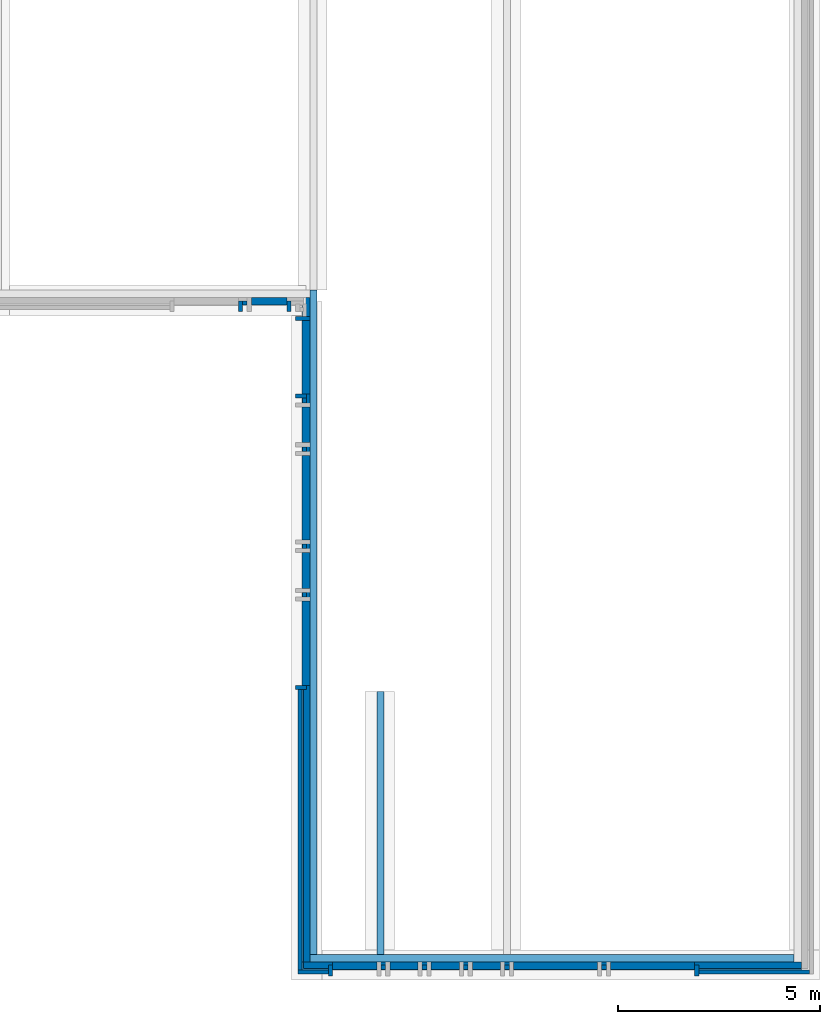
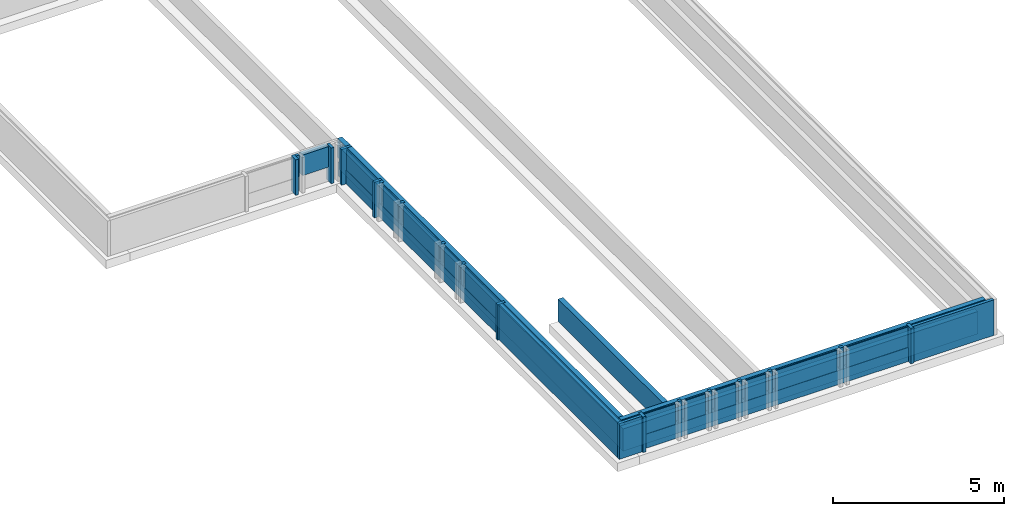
# One storey, part 4 of 15: 39 walls, 5 openings.
"""IFC2X3 building model written with IfcOpenShell, lengths in millimetres."""

from ifc_helpers import new_model, entity, si_unit, converted_unit, derived_unit, direction, frame, frame_2d, origin, place, context, subcontext, project, spatial, rectangle, extrude, material, layer, layer_set, layer_usage, type_object, element, save


model = new_model("IFC2X3")

# Units and contexts
model_context = context("Model", 3, precision=0.01, world=origin(), true_north=direction((6.123031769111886e-17, 1.0)))
body_context = subcontext(model_context, "Body", "Model", "MODEL_VIEW")
ifc_project = project(units=[si_unit("LENGTHUNIT", "METRE", prefix="MILLI"), si_unit("AREAUNIT", "SQUARE_METRE"), si_unit("VOLUMEUNIT", "CUBIC_METRE"), converted_unit("PLANEANGLEUNIT", "DEGREE", entity("IfcRatioMeasure", 0.017453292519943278), si_unit("PLANEANGLEUNIT", "RADIAN"), dimensions=[0, 0, 0, 0, 0, 0, 0]), si_unit("MASSUNIT", "GRAM", prefix="KILO"), derived_unit("MASSDENSITYUNIT", [(si_unit("MASSUNIT", "GRAM", prefix="KILO"), 1), (si_unit("LENGTHUNIT", "METRE"), -3)]), derived_unit("IONCONCENTRATIONUNIT", [(si_unit("MASSUNIT", "GRAM", prefix="KILO"), 1), (si_unit("LENGTHUNIT", "METRE"), -3)]), derived_unit("MOMENTOFINERTIAUNIT", [(si_unit("LENGTHUNIT", "METRE"), 4)]), si_unit("TIMEUNIT", "SECOND"), si_unit("FREQUENCYUNIT", "HERTZ"), si_unit("THERMODYNAMICTEMPERATUREUNIT", "DEGREE_CELSIUS"), derived_unit("THERMALTRANSMITTANCEUNIT", [(si_unit("MASSUNIT", "GRAM", prefix="KILO"), 1), (si_unit("THERMODYNAMICTEMPERATUREUNIT", "KELVIN"), -1), (si_unit("TIMEUNIT", "SECOND"), -3)]), derived_unit("THERMALCONDUCTANCEUNIT", [(si_unit("MASSUNIT", "GRAM", prefix="KILO"), 1), (si_unit("THERMODYNAMICTEMPERATUREUNIT", "KELVIN"), -1), (si_unit("TIMEUNIT", "SECOND"), -3), (si_unit("LENGTHUNIT", "METRE"), 1)]), derived_unit("VOLUMETRICFLOWRATEUNIT", [(si_unit("LENGTHUNIT", "METRE"), 3), (si_unit("TIMEUNIT", "SECOND"), -1)]), derived_unit("MASSFLOWRATEUNIT", [(si_unit("MASSUNIT", "GRAM", prefix="KILO"), 1), (si_unit("TIMEUNIT", "SECOND"), -1)]), derived_unit("ROTATIONALFREQUENCYUNIT", [(si_unit("TIMEUNIT", "SECOND"), -1)]), si_unit("ELECTRICCURRENTUNIT", "AMPERE"), si_unit("ELECTRICVOLTAGEUNIT", "VOLT"), si_unit("POWERUNIT", "WATT"), si_unit("FORCEUNIT", "NEWTON", prefix="KILO"), si_unit("ILLUMINANCEUNIT", "LUX"), si_unit("LUMINOUSFLUXUNIT", "LUMEN"), si_unit("LUMINOUSINTENSITYUNIT", "CANDELA"), derived_unit("USERDEFINED", [(si_unit("MASSUNIT", "GRAM", prefix="KILO"), -1), (si_unit("LENGTHUNIT", "METRE"), -2), (si_unit("TIMEUNIT", "SECOND"), 3), (si_unit("LUMINOUSFLUXUNIT", "LUMEN"), 1)]), derived_unit("USERDEFINED", [(si_unit("MASSUNIT", "GRAM", prefix="KILO"), 1), (si_unit("TIMEUNIT", "SECOND"), -3), (si_unit("LENGTHUNIT", "METRE"), 3), (si_unit("ELECTRICCURRENTUNIT", "AMPERE"), -2)]), derived_unit("SOUNDPOWERUNIT", [(si_unit("MASSUNIT", "GRAM", prefix="KILO"), 1), (si_unit("TIMEUNIT", "SECOND"), -3), (si_unit("LENGTHUNIT", "METRE"), 2)]), derived_unit("SOUNDPRESSUREUNIT", [(si_unit("MASSUNIT", "GRAM", prefix="KILO"), 1), (si_unit("LENGTHUNIT", "METRE"), -1), (si_unit("TIMEUNIT", "SECOND"), -2)]), derived_unit("LINEARVELOCITYUNIT", [(si_unit("LENGTHUNIT", "METRE"), 1), (si_unit("TIMEUNIT", "SECOND"), -1)]), si_unit("PRESSUREUNIT", "PASCAL"), derived_unit("USERDEFINED", [(si_unit("MASSUNIT", "GRAM", prefix="KILO"), 1), (si_unit("LENGTHUNIT", "METRE"), -2), (si_unit("TIMEUNIT", "SECOND"), -2)]), derived_unit("LINEARFORCEUNIT", [(si_unit("MASSUNIT", "GRAM", prefix="KILO"), 1), (si_unit("TIMEUNIT", "SECOND"), -2)]), derived_unit("PLANARFORCEUNIT", [(si_unit("MASSUNIT", "GRAM", prefix="KILO"), 1), (si_unit("LENGTHUNIT", "METRE"), -1), (si_unit("TIMEUNIT", "SECOND"), -2)]), derived_unit("SPECIFICHEATCAPACITYUNIT", [(si_unit("THERMODYNAMICTEMPERATUREUNIT", "KELVIN"), -1), (si_unit("LENGTHUNIT", "METRE"), 2), (si_unit("TIMEUNIT", "SECOND"), -2)]), derived_unit("HEATINGVALUEUNIT", [(si_unit("LENGTHUNIT", "METRE"), 2), (si_unit("TIMEUNIT", "SECOND"), -2)]), derived_unit("VAPORPERMEABILITYUNIT", [(si_unit("LENGTHUNIT", "METRE"), -1), (si_unit("TIMEUNIT", "SECOND"), 1)]), derived_unit("DYNAMICVISCOSITYUNIT", [(si_unit("MASSUNIT", "GRAM", prefix="KILO"), 1), (si_unit("TIMEUNIT", "SECOND"), -1), (si_unit("LENGTHUNIT", "METRE"), -1)]), derived_unit("THERMALEXPANSIONCOEFFICIENTUNIT", [(si_unit("THERMODYNAMICTEMPERATUREUNIT", "KELVIN"), -1)]), derived_unit("MODULUSOFELASTICITYUNIT", [(si_unit("MASSUNIT", "GRAM", prefix="KILO"), 1), (si_unit("LENGTHUNIT", "METRE"), -1), (si_unit("TIMEUNIT", "SECOND"), -2)]), derived_unit("ISOTHERMALMOISTURECAPACITYUNIT", [(si_unit("LENGTHUNIT", "METRE"), 3), (si_unit("MASSUNIT", "GRAM", prefix="KILO"), -1)]), derived_unit("MOISTUREDIFFUSIVITYUNIT", [(si_unit("TIMEUNIT", "SECOND"), -1), (si_unit("LENGTHUNIT", "METRE"), 2)])], contexts=[model_context])

# Site, building, storey
site_placement = place(None, frame((0.0, 300.0, 0.0)))
site = spatial("IfcSite", under=ifc_project, at=site_placement, Name="<Kadastrale nummers>", CompositionType="ELEMENT")
building_placement = place(site_placement, origin())
building = spatial("IfcBuilding", under=site, at=building_placement, CompositionType="ELEMENT")
storey_placement = place(building_placement, frame((0.0, 0.0, -1570.0)))
storey = spatial("IfcBuildingStorey", under=building, at=storey_placement, Name="-1 fundering", CompositionType="ELEMENT", Elevation=-1570.0)

# Walls
ifc_material_1 = material(Name="ISR_Metselwerk")
ifc_layer_1 = layer(ifc_material_1, 100.0)
ifc_layer_set_1 = layer_set([ifc_layer_1], Name="Basic Wall:21_DAT_metselwerk_100")
ifc_layer_usage_1 = layer_usage(ifc_layer_set_1, "AXIS2", "POSITIVE", -50.0)
wall_type_1 = type_object("IfcWallType", Name="Basic Wall:21_DAT_metselwerk_100", PredefinedType="STANDARD", material=ifc_layer_set_1)
wall_1_placement = place(storey_placement, frame((36225.0, 2374.9986232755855, 300.0)))
element("IfcWallStandardCase", 1, at=wall_1_placement, inside=storey, type_object=wall_type_1, material=ifc_layer_usage_1, Name="Basic Wall:21_DAT_metselwerk_100", ObjectType="Basic Wall:21_DAT_metselwerk_100", context=body_context, shape_type="SweptSolid", body=[
    extrude(rectangle(XDim=765.0000000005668, YDim=100.0, at=frame_2d((382.5000000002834, 3.552713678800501e-14), x_axis=(-1.0, 0.0))), origin(), (0.0, 0.0, 1.0), 1270.0000000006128),
])
wall_2_placement = place(storey_placement, frame((46140.0, 2374.998623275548, 300.0)))
element("IfcWallStandardCase", 2, at=wall_2_placement, inside=storey, type_object=wall_type_1, material=ifc_layer_usage_1, Name="Basic Wall:21_DAT_metselwerk_100", ObjectType="Basic Wall:21_DAT_metselwerk_100", context=body_context, shape_type="SweptSolid", body=[
    extrude(rectangle(XDim=2735.0000000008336, YDim=100.0, at=frame_2d((1367.5000000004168, -1.0658141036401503e-14), x_axis=(-1.0, 0.0))), origin(), (0.0, 0.0, 1.0), 1270.0000000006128),
])
wall_3_placement = place(storey_placement, frame((36275.0, 9360.0, 300.0), z_axis=(0.0, 0.0, 1.0), x_axis=(0.0, -1.0, 0.0)))
element("IfcWallStandardCase", 3, at=wall_3_placement, inside=storey, type_object=wall_type_1, material=ifc_layer_usage_1, Name="Basic Wall:21_DAT_metselwerk_100", ObjectType="Basic Wall:21_DAT_metselwerk_100", context=body_context, shape_type="SweptSolid", body=[
    extrude(rectangle(XDim=6935.001376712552, YDim=100.00000000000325, at=frame_2d((3467.500688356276, -9.237055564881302e-14), x_axis=(-1.0, 0.0))), origin(), (0.0, 0.0, 1.0), 1270.0000000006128),
])
wall_4_placement = place(storey_placement, frame((36390.0, 11760.0, 300.0), z_axis=(0.0, 0.0, 1.0), x_axis=(0.0, -1.0, 0.0)))
element("IfcWallStandardCase", 4, at=wall_4_placement, inside=storey, type_object=wall_type_1, material=ifc_layer_usage_1, Name="Basic Wall:21_DAT_metselwerk_100", ObjectType="Basic Wall:21_DAT_metselwerk_100", context=body_context, shape_type="SweptSolid", body=[
    extrude(rectangle(XDim=120.0000000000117, YDim=100.00000000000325, at=frame_2d((60.00000000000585, 6.501466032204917e-13), x_axis=(-1.0, 0.0))), origin(), (0.0, 0.0, 1.0), 1270.0000000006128),
])
wall_5_placement = place(storey_placement, frame((38280.0, 2489.9986232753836, 300.0)))
element("IfcWallStandardCase", 5, at=wall_5_placement, inside=storey, type_object=wall_type_1, material=ifc_layer_usage_1, Name="Basic Wall:21_DAT_metselwerk_100", ObjectType="Basic Wall:21_DAT_metselwerk_100", context=body_context, shape_type="SweptSolid", body=[
    extrude(rectangle(XDim=120.00000000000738, YDim=100.0, at=frame_2d((60.00000000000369, 0.0), x_axis=(-1.0, 0.0))), origin(), (0.0, 0.0, 1.0), 1270.0000000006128),
])
for number, where, name in (
    (6, (39300.0, 2489.9986232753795, 300.0), "Basic Wall:21_DAT_metselwerk_100"),
    (7, (40320.0, 2489.998623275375, 300.0), "Basic Wall:21_DAT_metselwerk_100"),
    (8, (41340.0, 2489.998623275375, 300.0), "Basic Wall:21_DAT_metselwerk_100"),
    (9, (43740.0, 2489.9986232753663, 300.0), "Basic Wall:21_DAT_metselwerk_100"),
):
    element("IfcWallStandardCase", number, at=place(storey_placement, frame(where)), inside=storey, type_object=wall_type_1, material=ifc_layer_usage_1, Name=name, ObjectType="Basic Wall:21_DAT_metselwerk_100", context=body_context, shape_type="SweptSolid", body=[
        extrude(rectangle(XDim=119.9999999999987, YDim=100.0, at=frame_2d((59.99999999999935, 0.0), x_axis=(-1.0, 0.0))), origin(), (0.0, 0.0, 1.0), 1270.0000000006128),
    ])
for number, where, z_axis, x_axis, name in (
    (10, (36390.0, 12960.0, 300.0), (0.0, 0.0, 1.0), (0.0, -1.0, 0.0), "Basic Wall:21_DAT_metselwerk_100"),
    (11, (36390.0, 15360.0, 300.0), (0.0, 0.0, 1.0), (0.0, -1.0, 0.0), "Basic Wall:21_DAT_metselwerk_100"),
    (12, (36390.0, 16560.0, 300.0), (0.0, 0.0, 1.0), (0.0, -1.0, 0.0), "Basic Wall:21_DAT_metselwerk_100"),
):
    element("IfcWallStandardCase", number, at=place(storey_placement, frame(where, z_axis=z_axis, x_axis=x_axis)), inside=storey, type_object=wall_type_1, material=ifc_layer_usage_1, Name=name, ObjectType="Basic Wall:21_DAT_metselwerk_100", context=body_context, shape_type="SweptSolid", body=[
        extrude(rectangle(XDim=120.00000000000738, YDim=100.00000000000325, at=frame_2d((60.00000000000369, 6.501466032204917e-13), x_axis=(-1.0, 0.0))), origin(), (0.0, 0.0, 1.0), 1270.0000000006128),
    ])
ifc_layer_usage_2 = layer_usage(ifc_layer_set_1, "AXIS2", "NEGATIVE", 50.0)
wall_6_placement = place(storey_placement, frame((34975.0, 18919.998623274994, 300.0), z_axis=(0.0, 0.0, 1.0), x_axis=(-1.0, 0.0, 0.0)))
element("IfcWallStandardCase", 13, at=wall_6_placement, inside=storey, type_object=wall_type_1, material=ifc_layer_usage_2, Name="Basic Wall:21_DAT_metselwerk_100", ObjectType="Basic Wall:21_DAT_metselwerk_100", context=body_context, shape_type="SweptSolid", body=[
    extrude(rectangle(XDim=120.00000000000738, YDim=99.99999999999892, at=frame_2d((60.00000000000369, -6.998845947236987e-13), x_axis=(-1.0, 0.0))), origin(), (0.0, 0.0, 1.0), 1270.0000000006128),
])
wall_7_placement = place(storey_placement, frame((36440.0, 16610.0, 300.0), z_axis=(0.0, 0.0, 1.0), x_axis=(-1.0, 0.0, 0.0)))
element("IfcWallStandardCase", 14, at=wall_7_placement, inside=storey, type_object=wall_type_1, material=ifc_layer_usage_2, Name="Basic Wall:21_DAT_metselwerk_100", ObjectType="Basic Wall:21_DAT_metselwerk_100", context=body_context, shape_type="SweptSolid", body=[
    extrude(rectangle(XDim=264.99999999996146, YDim=99.99999999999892, at=frame_2d((132.49999999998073, -6.252776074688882e-13), x_axis=(-1.0, 0.0))), origin(), (0.0, 0.0, 1.0), 1270.0000000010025),
])
wall_8_placement = place(storey_placement, frame((34805.0, 18969.998623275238, 300.0), z_axis=(0.0, 0.0, 1.0), x_axis=(0.0, -1.0, 0.0)))
element("IfcWallStandardCase", 15, at=wall_8_placement, inside=storey, type_object=wall_type_1, material=ifc_layer_usage_1, Name="Basic Wall:21_DAT_metselwerk_100", ObjectType="Basic Wall:21_DAT_metselwerk_100", context=body_context, shape_type="SweptSolid", body=[
    extrude(rectangle(XDim=264.99999999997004, YDim=100.00000000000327, at=frame_2d((132.49999999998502, -1.2079226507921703e-13), x_axis=(-1.0, 0.0))), origin(), (0.0, 0.0, 1.0), 1270.0000000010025),
])
wall_9_placement = place(storey_placement, frame((36440.0, 9410.0, 300.0), z_axis=(0.0, 0.0, 1.0), x_axis=(-1.0, 0.0, 0.0)))
element("IfcWallStandardCase", 16, at=wall_9_placement, inside=storey, type_object=wall_type_1, material=ifc_layer_usage_1, Name="Basic Wall:21_DAT_metselwerk_100", ObjectType="Basic Wall:21_DAT_metselwerk_100", context=body_context, shape_type="SweptSolid", body=[
    extrude(rectangle(XDim=264.9999999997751, YDim=99.99999999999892, at=frame_2d((132.49999999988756, 4.192202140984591e-13), x_axis=(-1.0, 0.0))), origin(), (0.0, 0.0, 1.0), 1270.0000000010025),
])
wall_10_placement = place(storey_placement, frame((46090.0, 2539.998623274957, 300.0), z_axis=(0.0, 0.0, 1.0), x_axis=(0.0, -1.0, 0.0)))
element("IfcWallStandardCase", 17, at=wall_10_placement, inside=storey, type_object=wall_type_1, material=ifc_layer_usage_1, Name="Basic Wall:21_DAT_metselwerk_100", ObjectType="Basic Wall:21_DAT_metselwerk_100", context=body_context, shape_type="SweptSolid", body=[
    extrude(rectangle(XDim=264.999999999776, YDim=99.9999999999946, at=frame_2d((132.499999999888, 4.192202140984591e-13), x_axis=(-1.0, 0.0))), origin(), (0.0, 0.0, 1.0), 1270.0000000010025),
])
wall_11_placement = place(storey_placement, frame((37040.0, 2539.9986232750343, 300.0), z_axis=(0.0, 0.0, 1.0), x_axis=(0.0, -1.0, 0.0)))
element("IfcWallStandardCase", 18, at=wall_11_placement, inside=storey, type_object=wall_type_1, material=ifc_layer_usage_2, Name="Basic Wall:21_DAT_metselwerk_100", ObjectType="Basic Wall:21_DAT_metselwerk_100", context=body_context, shape_type="SweptSolid", body=[
    extrude(rectangle(XDim=264.9999999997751, YDim=100.00000000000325, at=frame_2d((132.49999999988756, 8.704148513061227e-13), x_axis=(-1.0, 0.0))), origin(), (0.0, 0.0, 1.0), 1270.0000000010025),
])
wall_12_placement = place(storey_placement, frame((36005.0, 18969.998623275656, 300.0), z_axis=(0.0, 0.0, 1.0), x_axis=(0.0, -1.0, 0.0)))
element("IfcWallStandardCase", 19, at=wall_12_placement, inside=storey, type_object=wall_type_1, material=ifc_layer_usage_2, Name="Basic Wall:21_DAT_metselwerk_100", ObjectType="Basic Wall:21_DAT_metselwerk_100", context=body_context, shape_type="SweptSolid", body=[
    extrude(rectangle(XDim=264.99999999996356, YDim=100.00000000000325, at=frame_2d((132.49999999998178, -9.841016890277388e-13), x_axis=(-1.0, 0.0))), origin(), (0.0, 0.0, 1.0), 1270.0000000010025),
])
wall_13_placement = place(storey_placement, frame((36525.0, 18534.998623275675, 300.0), z_axis=(0.0, 0.0, 1.0), x_axis=(-1.0, 0.0, 0.0)))
element("IfcWallStandardCase", 20, at=wall_13_placement, inside=storey, type_object=wall_type_1, material=ifc_layer_usage_2, Name="Basic Wall:21_DAT_metselwerk_100", ObjectType="Basic Wall:21_DAT_metselwerk_100", context=body_context, shape_type="SweptSolid", body=[
    extrude(rectangle(XDim=350.00000000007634, YDim=99.99999999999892, at=frame_2d((175.00000000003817, -7.887024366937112e-13), x_axis=(-1.0, 0.0))), origin(), (0.0, 0.0, 1.0), 1270.0000000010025),
])
ifc_material_2 = material(Name="ISR_Gips")
ifc_layer_2 = layer(ifc_material_2, 1.0)
ifc_material_3 = material(Name="ISR_Kalkzandsteen")
ifc_layer_3 = layer(ifc_material_3, 173.0)
ifc_layer_4 = layer(ifc_material_2, 1.0)
ifc_layer_set_2 = layer_set([ifc_layer_2, ifc_layer_3, ifc_layer_4], Name="Basic Wall:28_DAT_kalkzandsteen_175mm")
ifc_layer_usage_3 = layer_usage(ifc_layer_set_2, "AXIS2", "NEGATIVE", 87.49999999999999)
wall_type_2 = type_object("IfcWallType", Name="Basic Wall:28_DAT_kalkzandsteen_175mm", PredefinedType="STANDARD", material=ifc_layer_set_2)
wall_14_placement = place(storey_placement, frame((48500.0, 2712.4986232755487, 300.0), z_axis=(0.0, 0.0, 1.0), x_axis=(-1.0, 0.0, 0.0)))
element("IfcWallStandardCase", 21, at=wall_14_placement, inside=storey, type_object=wall_type_2, material=ifc_layer_usage_3, Name="Basic Wall:28_DAT_kalkzandsteen_175mm", ObjectType="Basic Wall:28_DAT_kalkzandsteen_175mm", context=body_context, shape_type="SweptSolid", body=[
    extrude(rectangle(XDim=11974.99999999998, YDim=175.00000000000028, at=frame_2d((5987.49999999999, -1.4210854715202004e-14), x_axis=(-1.0, 0.0))), origin(), (0.0, 0.0, 1.0), 800.0000000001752),
])
wall_15_placement = place(storey_placement, frame((36612.50000000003, 2799.9986232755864, 300.0), z_axis=(0.0, 0.0, 1.0), x_axis=(0.0, 1.0, 0.0)))
element("IfcWallStandardCase", 22, at=wall_15_placement, inside=storey, type_object=wall_type_2, material=ifc_layer_usage_3, Name="Basic Wall:28_DAT_kalkzandsteen_175mm", ObjectType="Basic Wall:28_DAT_kalkzandsteen_175mm", context=body_context, shape_type="SweptSolid", body=[
    extrude(rectangle(XDim=16430.000000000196, YDim=175.00000000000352, at=frame_2d((8215.000000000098, 0.0), x_axis=(-1.0, 0.0))), origin(), (0.0, 0.0, 1.0), 800.0000000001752),
])
wall_16_placement = place(storey_placement, frame((38275.0, 9309.998623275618, 300.0), z_axis=(0.0, 0.0, 1.0), x_axis=(0.0, -1.0, 0.0)))
element("IfcWallStandardCase", 23, at=wall_16_placement, inside=storey, type_object=wall_type_2, material=ifc_layer_usage_3, Name="Basic Wall:28_DAT_kalkzandsteen_175mm", ObjectType="Basic Wall:28_DAT_kalkzandsteen_175mm", context=body_context, shape_type="SweptSolid", body=[
    extrude(rectangle(XDim=6510.000000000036, YDim=175.00000000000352, at=frame_2d((3255.000000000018, -1.3287149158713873e-12), x_axis=(-1.0, 0.0))), origin(), (0.0, 0.0, 1.0), 800.0000000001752),
])

# Wall, openings
ifc_material_4 = material(Name="ISR_Isolatie")
ifc_layer_5 = layer(ifc_material_4, 160.0)
ifc_layer_set_3 = layer_set([ifc_layer_5], Name="Basic Wall:21_DAT_isolatie minerale wol_160")
ifc_layer_usage_4 = layer_usage(ifc_layer_set_3, "AXIS2", "NEGATIVE", 80.0)
wall_type_3 = type_object("IfcWallType", Name="Basic Wall:21_DAT_isolatie minerale wol_160", PredefinedType="STANDARD", material=ifc_layer_set_3)
wall_17_placement = place(storey_placement, frame((48675.0, 2544.9986232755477, 900.0), z_axis=(0.0, 0.0, 1.0), x_axis=(-1.0, 0.0, 0.0)))
wall_17 = element("IfcWallStandardCase", 24, at=wall_17_placement, inside=storey, type_object=wall_type_3, material=ifc_layer_usage_4, Name="Basic Wall:21_DAT_isolatie minerale wol_160", ObjectType="Basic Wall:21_DAT_isolatie minerale wol_160", context=body_context, shape_type="SweptSolid", body=[
    extrude(rectangle(XDim=12309.999999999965, YDim=160.00000000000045, at=frame_2d((6154.999999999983, -1.2079226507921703e-13), x_axis=(-1.0, 0.0))), origin(), (0.0, 0.0, 1.0), 670.0000000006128),
])
opening_1_placement = place(wall_17_placement, origin())
element("IfcOpeningElement", 25, at=opening_1_placement, cuts=wall_17, Name="Basic Wall:21_DAT_isolatie minerale wol_160", ObjectType="Opening", context=body_context, shape_type="SweptSolid", body=[
    extrude(rectangle(XDim=730.000000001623, YDim=1090.0000000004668, at=frame_2d((-2.1600499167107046e-12, 0.0), x_axis=(0.0, 1.0))), frame((11040.0, -232.3999999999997, 265.0), z_axis=(0.0, 1.0, 0.0), x_axis=(-1.0, 0.0, 0.0)), (0.0, 0.0, 1.0), 464.7999999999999),
])
opening_2_placement = place(wall_17_placement, origin())
element("IfcOpeningElement", 26, at=opening_2_placement, cuts=wall_17, Name="Basic Wall:21_DAT_isolatie minerale wol_160", ObjectType="Opening", context=body_context, shape_type="SweptSolid", body=[
    extrude(rectangle(XDim=730.0000000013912, YDim=699.9999999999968, at=frame_2d((0.0, 0.0), x_axis=(0.0, 1.0))), frame((9825.0, -232.3999999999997, 265.0), z_axis=(0.0, 1.0, 0.0), x_axis=(-1.0, 0.0, 0.0)), (0.0, 0.0, 1.0), 464.7999999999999),
])
opening_3_placement = place(wall_17_placement, origin())
element("IfcOpeningElement", 27, at=opening_3_placement, cuts=wall_17, Name="Basic Wall:21_DAT_isolatie minerale wol_160", ObjectType="Opening", context=body_context, shape_type="SweptSolid", body=[
    extrude(rectangle(XDim=730.0000000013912, YDim=699.9999999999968, at=frame_2d((0.0, 0.0), x_axis=(0.0, 1.0))), frame((8805.0, -232.3999999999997, 265.0), z_axis=(0.0, 1.0, 0.0), x_axis=(-1.0, 0.0, 0.0)), (0.0, 0.0, 1.0), 464.79999999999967),
])
opening_4_placement = place(wall_17_placement, origin())
element("IfcOpeningElement", 28, at=opening_4_placement, cuts=wall_17, Name="Basic Wall:21_DAT_isolatie minerale wol_160", ObjectType="Opening", context=body_context, shape_type="SweptSolid", body=[
    extrude(rectangle(XDim=730.0000000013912, YDim=699.9999999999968, at=frame_2d((0.0, 0.0), x_axis=(0.0, 1.0))), frame((7785.0, -232.3999999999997, 265.0), z_axis=(0.0, 1.0, 0.0), x_axis=(-1.0, 0.0, 0.0)), (0.0, 0.0, 1.0), 464.7999999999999),
])
opening_5_placement = place(wall_17_placement, origin())
element("IfcOpeningElement", 29, at=opening_5_placement, cuts=wall_17, Name="Basic Wall:21_DAT_isolatie minerale wol_160", ObjectType="Opening", context=body_context, shape_type="SweptSolid", body=[
    extrude(rectangle(XDim=730.0000000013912, YDim=2079.999999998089, at=frame_2d((0.0, 0.0), x_axis=(0.0, 1.0))), frame((3675.0, -232.3999999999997, 265.0), z_axis=(0.0, 1.0, 0.0), x_axis=(-1.0, 0.0, 0.0)), (0.0, 0.0, 1.0), 464.7999999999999),
])

# Walls
wall_18_placement = place(storey_placement, frame((36445.0, 2624.998623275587, 900.0), z_axis=(0.0, 0.0, 1.0), x_axis=(0.0, 1.0, 0.0)))
element("IfcWallStandardCase", 30, at=wall_18_placement, inside=storey, type_object=wall_type_3, material=ifc_layer_usage_4, Name="Basic Wall:21_DAT_isolatie minerale wol_160", ObjectType="Basic Wall:21_DAT_isolatie minerale wol_160", context=body_context, shape_type="SweptSolid", body=[
    extrude(rectangle(XDim=16430.000000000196, YDim=159.9999999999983, at=frame_2d((8215.000000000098, 1.6342482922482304e-13), x_axis=(-1.0, 0.0))), origin(), (0.0, 0.0, 1.0), 670.0000000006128),
])
ifc_material_5 = material(Name="ISR_Beton_prefab")
ifc_layer_6 = layer(ifc_material_5, 15.0)
ifc_layer_7 = layer(ifc_material_4, 175.0)
ifc_layer_set_4 = layer_set([ifc_layer_6, ifc_layer_7], Name="Basic Wall:21_DAT_gevelplint 175")
ifc_layer_usage_5 = layer_usage(ifc_layer_set_4, "AXIS2", "POSITIVE", -95.00000000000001)
wall_type_4 = type_object("IfcWallType", Name="Basic Wall:21_DAT_gevelplint 175", PredefinedType="STANDARD", material=ifc_layer_set_4)
wall_19_placement = place(storey_placement, frame((37090.0, 2530.0, 800.0)))
element("IfcWallStandardCase", 31, at=wall_19_placement, inside=storey, type_object=wall_type_4, material=ifc_layer_usage_5, Name="Basic Wall:21_DAT_gevelplint 175", ObjectType="Basic Wall:21_DAT_gevelplint 175", context=body_context, shape_type="SweptSolid", body=[
    extrude(rectangle(XDim=1090.000000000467, YDim=189.99999999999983, at=frame_2d((545.0000000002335, 1.3500311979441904e-13), x_axis=(-1.0, 0.0))), origin(), (0.0, 0.0, 1.0), 730.000000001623),
])
wall_20_placement = place(storey_placement, frame((36430.0, 12740.0, 800.0), z_axis=(0.0, 0.0, 1.0), x_axis=(0.0, -1.0, 0.0)))
element("IfcWallStandardCase", 32, at=wall_20_placement, inside=storey, type_object=wall_type_4, material=ifc_layer_usage_5, Name="Basic Wall:21_DAT_gevelplint 175", ObjectType="Basic Wall:21_DAT_gevelplint 175", context=body_context, shape_type="SweptSolid", body=[
    extrude(rectangle(XDim=880.0000000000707, YDim=190.0000000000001, at=frame_2d((440.00000000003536, 3.979039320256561e-13), x_axis=(-1.0, 0.0))), origin(), (0.0, 0.0, 1.0), 730.0000000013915),
])
wall_21_placement = place(storey_placement, frame((36430.0, 16340.0, 800.0), z_axis=(0.0, 0.0, 1.0), x_axis=(0.0, -1.0, 0.0)))
element("IfcWallStandardCase", 33, at=wall_21_placement, inside=storey, type_object=wall_type_4, material=ifc_layer_usage_5, Name="Basic Wall:21_DAT_gevelplint 175", ObjectType="Basic Wall:21_DAT_gevelplint 175", context=body_context, shape_type="SweptSolid", body=[
    extrude(rectangle(XDim=880.0000000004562, YDim=190.0000000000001, at=frame_2d((440.0000000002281, 3.979039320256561e-13), x_axis=(-1.0, 0.0))), origin(), (0.0, 0.0, 1.0), 730.0000000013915),
])
wall_22_placement = place(storey_placement, frame((35075.0, 18959.998623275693, 800.0)))
element("IfcWallStandardCase", 34, at=wall_22_placement, inside=storey, type_object=wall_type_4, material=ifc_layer_usage_5, Name="Basic Wall:21_DAT_gevelplint 175", ObjectType="Basic Wall:21_DAT_gevelplint 175", context=body_context, shape_type="SweptSolid", body=[
    extrude(rectangle(XDim=879.9999999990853, YDim=190.0000000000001, at=frame_2d((439.99999999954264, 0.0), x_axis=(-1.0, 0.0))), origin(), (0.0, 0.0, 1.0), 730.0000000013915),
])
wall_23_placement = place(storey_placement, frame((41560.0, 2529.998623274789, 800.0)))
element("IfcWallStandardCase", 35, at=wall_23_placement, inside=storey, type_object=wall_type_4, material=ifc_layer_usage_5, Name="Basic Wall:21_DAT_gevelplint 175", ObjectType="Basic Wall:21_DAT_gevelplint 175", context=body_context, shape_type="SweptSolid", body=[
    extrude(rectangle(XDim=2079.999999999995, YDim=190.0000000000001, at=frame_2d((1039.9999999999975, -2.2737367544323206e-13), x_axis=(-1.0, 0.0))), origin(), (0.0, 0.0, 1.0), 730.0000000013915),
])
wall_24_placement = place(storey_placement, frame((36430.0, 15140.0, 800.0), z_axis=(0.0, 0.0, 1.0), x_axis=(0.0, -1.0, 0.0)))
element("IfcWallStandardCase", 36, at=wall_24_placement, inside=storey, type_object=wall_type_4, material=ifc_layer_usage_5, Name="Basic Wall:21_DAT_gevelplint 175", ObjectType="Basic Wall:21_DAT_gevelplint 175", context=body_context, shape_type="SweptSolid", body=[
    extrude(rectangle(XDim=2079.9999999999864, YDim=190.0000000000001, at=frame_2d((1039.9999999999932, 8.455458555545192e-13), x_axis=(-1.0, 0.0))), origin(), (0.0, 0.0, 1.0), 730.0000000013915),
])
for number, where, name in (
    (37, (38500.0, 2530.0, 800.0), "Basic Wall:21_DAT_gevelplint 175"),
    (38, (39520.0, 2530.0, 800.0), "Basic Wall:21_DAT_gevelplint 175"),
    (39, (40540.0, 2530.0, 800.0), "Basic Wall:21_DAT_gevelplint 175"),
):
    element("IfcWallStandardCase", number, at=place(storey_placement, frame(where)), inside=storey, type_object=wall_type_4, material=ifc_layer_usage_5, Name=name, ObjectType="Basic Wall:21_DAT_gevelplint 175", context=body_context, shape_type="SweptSolid", body=[
        extrude(rectangle(XDim=700.0000000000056, YDim=190.0000000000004, at=frame_2d((350.0000000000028, -9.237055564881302e-14), x_axis=(-1.0, 0.0))), origin(), (0.0, 0.0, 1.0), 730.0000000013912),
    ])
wall_25_placement = place(storey_placement, frame((43960.0, 2529.9986232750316, 800.0)))
element("IfcWallStandardCase", 40, at=wall_25_placement, inside=storey, type_object=wall_type_4, material=ifc_layer_usage_5, Name="Basic Wall:21_DAT_gevelplint 175", ObjectType="Basic Wall:21_DAT_gevelplint 175", context=body_context, shape_type="SweptSolid", body=[
    extrude(rectangle(XDim=2079.999999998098, YDim=190.0000000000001, at=frame_2d((1039.999999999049, 2.842170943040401e-14), x_axis=(-1.0, 0.0))), origin(), (0.0, 0.0, 1.0), 730.0000000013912),
])
wall_26_placement = place(storey_placement, frame((36430.0, 11540.0, 800.0), z_axis=(0.0, 0.0, 1.0), x_axis=(0.0, -1.0, 0.0)))
element("IfcWallStandardCase", 41, at=wall_26_placement, inside=storey, type_object=wall_type_4, material=ifc_layer_usage_5, Name="Basic Wall:21_DAT_gevelplint 175", ObjectType="Basic Wall:21_DAT_gevelplint 175", context=body_context, shape_type="SweptSolid", body=[
    extrude(rectangle(XDim=2080.000000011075, YDim=190.0000000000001, at=frame_2d((1040.0000000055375, 1.6839862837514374e-12), x_axis=(-1.0, 0.0))), origin(), (0.0, 0.0, 1.0), 730.0000000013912),
])
wall_27_placement = place(storey_placement, frame((36430.0, 18484.998623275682, 800.0), z_axis=(0.0, 0.0, 1.0), x_axis=(0.0, -1.0, 0.0)))
element("IfcWallStandardCase", 42, at=wall_27_placement, inside=storey, type_object=wall_type_4, material=ifc_layer_usage_5, Name="Basic Wall:21_DAT_gevelplint 175", ObjectType="Basic Wall:21_DAT_gevelplint 175", context=body_context, shape_type="SweptSolid", body=[
    extrude(rectangle(XDim=1824.9986232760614, YDim=190.0000000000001, at=frame_2d((912.4993116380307, 0.0), x_axis=(-1.0, 0.0))), origin(), (0.0, 0.0, 1.0), 725.0000000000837),
])
ifc_material_6 = material(Name="ISR_Speci ihwg(1)")
ifc_layer_8 = layer(ifc_material_6, 195.0)
ifc_layer_set_5 = layer_set([ifc_layer_8], Name="Basic Wall:28_DAT_ihw specie")
ifc_layer_usage_6 = layer_usage(ifc_layer_set_5, "AXIS2", "NEGATIVE", 97.5)
wall_type_5 = type_object("IfcWallType", Name="Basic Wall:28_DAT_ihw specie", PredefinedType="STANDARD", material=ifc_layer_set_5)
wall_28_placement = place(storey_placement, frame((48680.0, 2522.4986232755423, 300.0), z_axis=(0.0, 0.0, 1.0), x_axis=(-1.0, 0.0, 0.0)))
element("IfcWallStandardCase", 43, at=wall_28_placement, inside=storey, type_object=wall_type_5, material=ifc_layer_usage_6, Name="Basic Wall:28_DAT_ihw specie", ObjectType="Basic Wall:28_DAT_ihw specie", context=body_context, shape_type="SweptSolid", body=[
    extrude(rectangle(XDim=12354.999999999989, YDim=195.00000000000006, at=frame_2d((6177.4999999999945, -4.263256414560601e-14), x_axis=(-1.0, 0.0))), origin(), (0.0, 0.0, 1.0), 500.00000000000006),
])
wall_29_placement = place(storey_placement, frame((36422.50000000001, 2619.9986232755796, 300.0), z_axis=(0.0, 0.0, 1.0), x_axis=(0.0, 1.0, 0.0)))
element("IfcWallStandardCase", 44, at=wall_29_placement, inside=storey, type_object=wall_type_5, material=ifc_layer_usage_6, Name="Basic Wall:28_DAT_ihw specie", ObjectType="Basic Wall:28_DAT_ihw specie", context=body_context, shape_type="SweptSolid", body=[
    extrude(rectangle(XDim=16335.000000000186, YDim=194.99999999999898, at=frame_2d((8167.500000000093, 8.526512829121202e-14), x_axis=(-1.0, 0.0))), origin(), (0.0, 0.0, 1.0), 500.00000000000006),
])

save(model, "model.ifc")
